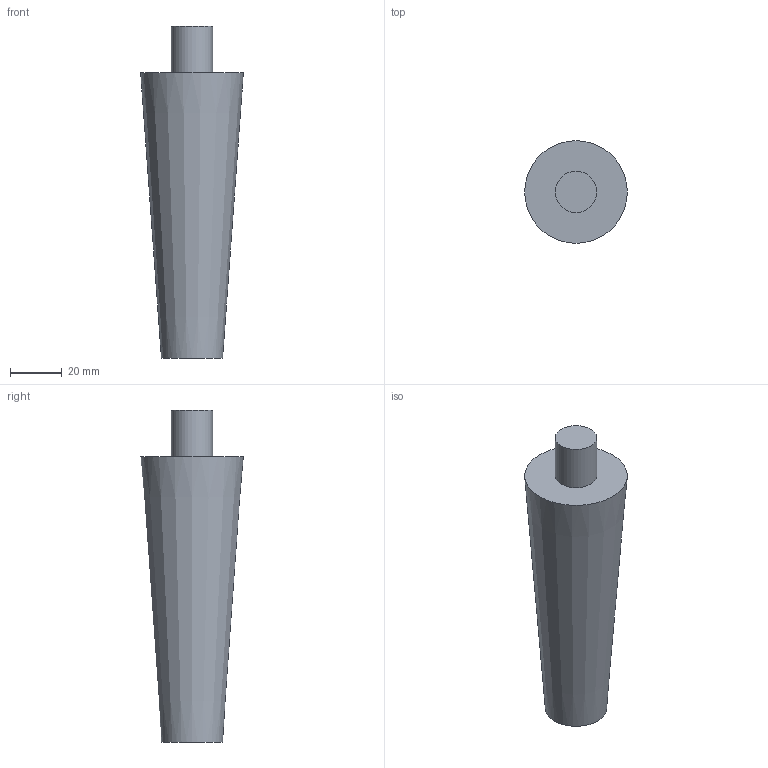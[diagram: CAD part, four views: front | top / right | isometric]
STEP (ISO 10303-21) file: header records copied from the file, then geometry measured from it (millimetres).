
FILE_DESCRIPTION(('Open CASCADE Model'),'2;1');
FILE_NAME('Open CASCADE Shape Model','2026-07-10T11:14:35',('Author'),( 'Open CASCADE'),'Open CASCADE STEP processor 7.9','Open CASCADE 7.9' ,'Unknown');
FILE_SCHEMA(('AUTOMOTIVE_DESIGN { 1 0 10303 214 1 1 1 1 }'));
Length unit declared in the file: millimetre
Products named in the file (1): Open CASCADE STEP translator 7.9 5
Bounding box: 39.6 x 39.6 x 128 mm (x, y, z)
Volume: 91731.6 mm3; surface area: 13522.9 mm2
Topology: 1 solids, 1 shells, 5 faces, 6 edges, 4 vertices
Faces by surface type: plane 3, cone 1, cylinder 1
Full cylindrical faces by diameter (mm): 16 x1
Entity records: 192 total; most frequent: DIRECTION 34, CARTESIAN_POINT 28, ORIENTED_EDGE 12, PCURVE 12, DEFINITIONAL_REPRESENTATION 12, AXIS2_PLACEMENT_3D 10, LINE 10, VECTOR 10
